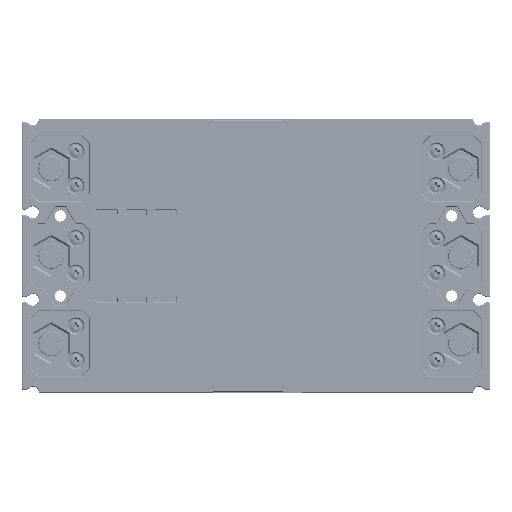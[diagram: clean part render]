
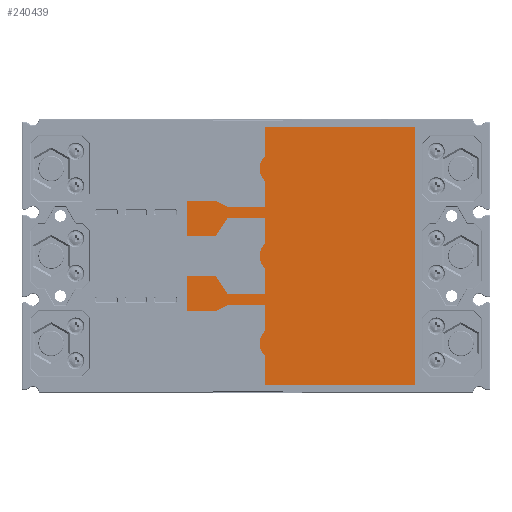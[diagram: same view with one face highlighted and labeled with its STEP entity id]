
A CAD part, front view. The second image highlights one B-rep face of the part: STEP entity #240439.
In plain terms, the highlighted planar face has unit normal (0, -1, 0) as drawn and (0, 0, 1) by its records, which use the part's own axes.
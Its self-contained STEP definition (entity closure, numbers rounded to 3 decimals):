
#239595=DIRECTION('',(1.,0.,0.));
#239596=VECTOR('',#239595,142.);
#239597=CARTESIAN_POINT('',(-71.,0.,0.8));
#239598=LINE('',#239597,#239596);
#239775=DIRECTION('',(0.,-1.,0.));
#239776=VECTOR('',#239775,20.5);
#239777=CARTESIAN_POINT('',(27.1,103.,0.8));
#239778=LINE('',#239777,#239776);
#239779=DIRECTION('',(1.,0.,0.));
#239780=VECTOR('',#239779,13.972);
#239781=CARTESIAN_POINT('',(27.1,82.5,0.8));
#239782=LINE('',#239781,#239780);
#239783=CARTESIAN_POINT('',(48.,76.,0.8));
#239784=DIRECTION('',(0.,0.,-1.));
#239785=DIRECTION('',(-0.729,0.684,0.));
#239786=AXIS2_PLACEMENT_3D('',#239783,#239784,#239785);
#239788=DIRECTION('',(1.,0.,0.));
#239789=VECTOR('',#239788,16.072);
#239790=CARTESIAN_POINT('',(54.928,82.5,0.8));
#239791=LINE('',#239790,#239789);
#239792=DIRECTION('',(0.,-1.,0.));
#239793=VECTOR('',#239792,82.5);
#239794=CARTESIAN_POINT('',(71.,82.5,0.8));
#239795=LINE('',#239794,#239793);
#239796=DIRECTION('',(0.,1.,0.));
#239797=VECTOR('',#239796,82.5);
#239798=CARTESIAN_POINT('',(-71.,0.,0.8));
#239799=LINE('',#239798,#239797);
#239800=DIRECTION('',(1.,0.,0.));
#239801=VECTOR('',#239800,16.072);
#239802=CARTESIAN_POINT('',(-71.,82.5,0.8));
#239803=LINE('',#239802,#239801);
#239804=CARTESIAN_POINT('',(-48.,76.,0.8));
#239805=DIRECTION('',(0.,0.,-1.));
#239806=DIRECTION('',(-0.729,0.684,0.));
#239807=AXIS2_PLACEMENT_3D('',#239804,#239805,#239806);
#239809=DIRECTION('',(1.,0.,0.));
#239810=VECTOR('',#239809,13.972);
#239811=CARTESIAN_POINT('',(-41.072,82.5,0.8));
#239812=LINE('',#239811,#239810);
#239813=DIRECTION('',(0.,1.,0.));
#239814=VECTOR('',#239813,20.5);
#239815=CARTESIAN_POINT('',(-27.1,82.5,0.8));
#239816=LINE('',#239815,#239814);
#239817=DIRECTION('',(-0.436,0.9,0.));
#239818=VECTOR('',#239817,7.223);
#239819=CARTESIAN_POINT('',(-27.1,103.,0.8));
#239820=LINE('',#239819,#239818);
#239821=DIRECTION('',(0.,1.,0.));
#239822=VECTOR('',#239821,16.);
#239823=CARTESIAN_POINT('',(-30.25,109.5,0.8));
#239824=LINE('',#239823,#239822);
#239825=DIRECTION('',(1.,0.,0.));
#239826=VECTOR('',#239825,19.);
#239827=CARTESIAN_POINT('',(-30.25,125.5,0.8));
#239828=LINE('',#239827,#239826);
#239829=DIRECTION('',(0.,-1.,0.));
#239830=VECTOR('',#239829,16.);
#239831=CARTESIAN_POINT('',(-11.25,125.5,0.8));
#239832=LINE('',#239831,#239830);
#239833=DIRECTION('',(-0.829,-0.559,0.));
#239834=VECTOR('',#239833,11.635);
#239835=CARTESIAN_POINT('',(-11.25,109.5,0.8));
#239836=LINE('',#239835,#239834);
#239837=DIRECTION('',(0.,-1.,0.));
#239838=VECTOR('',#239837,20.5);
#239839=CARTESIAN_POINT('',(-20.9,103.,0.8));
#239840=LINE('',#239839,#239838);
#239841=DIRECTION('',(1.,0.,0.));
#239842=VECTOR('',#239841,13.972);
#239843=CARTESIAN_POINT('',(-20.9,82.5,0.8));
#239844=LINE('',#239843,#239842);
#239845=CARTESIAN_POINT('',(0.,76.,0.8));
#239846=DIRECTION('',(0.,0.,-1.));
#239847=DIRECTION('',(-0.729,0.684,0.));
#239848=AXIS2_PLACEMENT_3D('',#239845,#239846,#239847);
#239850=DIRECTION('',(1.,0.,0.));
#239851=VECTOR('',#239850,13.972);
#239852=CARTESIAN_POINT('',(6.928,82.5,0.8));
#239853=LINE('',#239852,#239851);
#239854=DIRECTION('',(0.,1.,0.));
#239855=VECTOR('',#239854,20.5);
#239856=CARTESIAN_POINT('',(20.9,82.5,0.8));
#239857=LINE('',#239856,#239855);
#239858=DIRECTION('',(-0.829,0.559,0.));
#239859=VECTOR('',#239858,11.635);
#239860=CARTESIAN_POINT('',(20.9,103.,0.8));
#239861=LINE('',#239860,#239859);
#239862=DIRECTION('',(0.,1.,0.));
#239863=VECTOR('',#239862,16.);
#239864=CARTESIAN_POINT('',(11.25,109.5,0.8));
#239865=LINE('',#239864,#239863);
#239866=DIRECTION('',(1.,0.,0.));
#239867=VECTOR('',#239866,19.);
#239868=CARTESIAN_POINT('',(11.25,125.5,0.8));
#239869=LINE('',#239868,#239867);
#239870=DIRECTION('',(0.,-1.,0.));
#239871=VECTOR('',#239870,16.);
#239872=CARTESIAN_POINT('',(30.25,125.5,0.8));
#239873=LINE('',#239872,#239871);
#239874=DIRECTION('',(-0.436,-0.9,0.));
#239875=VECTOR('',#239874,7.223);
#239876=CARTESIAN_POINT('',(30.25,109.5,0.8));
#239877=LINE('',#239876,#239875);
#239930=CARTESIAN_POINT('',(-71.,0.,0.8));
#239931=VERTEX_POINT('',#239930);
#239932=CARTESIAN_POINT('',(71.,0.,0.8));
#239933=VERTEX_POINT('',#239932);
#239934=CARTESIAN_POINT('',(-71.,82.5,0.8));
#239935=VERTEX_POINT('',#239934);
#239936=CARTESIAN_POINT('',(-54.928,82.5,0.8));
#239937=VERTEX_POINT('',#239936);
#239938=CARTESIAN_POINT('',(-41.072,82.5,0.8));
#239939=VERTEX_POINT('',#239938);
#239940=CARTESIAN_POINT('',(-20.9,82.5,0.8));
#239941=VERTEX_POINT('',#239940);
#239942=CARTESIAN_POINT('',(-6.928,82.5,0.8));
#239943=VERTEX_POINT('',#239942);
#239944=CARTESIAN_POINT('',(-27.1,82.5,0.8));
#239945=VERTEX_POINT('',#239944);
#239946=CARTESIAN_POINT('',(-20.9,103.,0.8));
#239947=VERTEX_POINT('',#239946);
#239948=CARTESIAN_POINT('',(27.1,103.,0.8));
#239949=CARTESIAN_POINT('',(27.1,82.5,0.8));
#239950=VERTEX_POINT('',#239948);
#239951=VERTEX_POINT('',#239949);
#239952=CARTESIAN_POINT('',(41.072,82.5,0.8));
#239953=VERTEX_POINT('',#239952);
#239954=CARTESIAN_POINT('',(54.928,82.5,0.8));
#239955=VERTEX_POINT('',#239954);
#239956=CARTESIAN_POINT('',(71.,82.5,0.8));
#239957=VERTEX_POINT('',#239956);
#239958=CARTESIAN_POINT('',(-27.1,103.,0.8));
#239959=VERTEX_POINT('',#239958);
#239960=CARTESIAN_POINT('',(-30.25,109.5,0.8));
#239961=VERTEX_POINT('',#239960);
#239962=CARTESIAN_POINT('',(-30.25,125.5,0.8));
#239963=VERTEX_POINT('',#239962);
#239964=CARTESIAN_POINT('',(-11.25,125.5,0.8));
#239965=VERTEX_POINT('',#239964);
#239966=CARTESIAN_POINT('',(-11.25,109.5,0.8));
#239967=VERTEX_POINT('',#239966);
#239968=CARTESIAN_POINT('',(6.928,82.5,0.8));
#239969=VERTEX_POINT('',#239968);
#239970=CARTESIAN_POINT('',(20.9,82.5,0.8));
#239971=VERTEX_POINT('',#239970);
#239972=CARTESIAN_POINT('',(20.9,103.,0.8));
#239973=VERTEX_POINT('',#239972);
#239974=CARTESIAN_POINT('',(11.25,109.5,0.8));
#239975=VERTEX_POINT('',#239974);
#239976=CARTESIAN_POINT('',(11.25,125.5,0.8));
#239977=VERTEX_POINT('',#239976);
#239978=CARTESIAN_POINT('',(30.25,125.5,0.8));
#239979=VERTEX_POINT('',#239978);
#239980=CARTESIAN_POINT('',(30.25,109.5,0.8));
#239981=VERTEX_POINT('',#239980);
#240406=CARTESIAN_POINT('',(0.,0.,0.8));
#240407=DIRECTION('',(0.,0.,1.));
#240408=DIRECTION('',(1.,0.,0.));
#240409=AXIS2_PLACEMENT_3D('',#240406,#240407,#240408);
#240410=PLANE('',#240409);
#240411=ORIENTED_EDGE('',*,*,#240344,.T.);
#240412=ORIENTED_EDGE('',*,*,#240360,.T.);
#240413=ORIENTED_EDGE('',*,*,#240373,.T.);
#240414=ORIENTED_EDGE('',*,*,#240387,.T.);
#240415=ORIENTED_EDGE('',*,*,#240400,.T.);
#240416=ORIENTED_EDGE('',*,*,#240050,.F.);
#240417=ORIENTED_EDGE('',*,*,#240065,.T.);
#240418=ORIENTED_EDGE('',*,*,#240079,.T.);
#240419=ORIENTED_EDGE('',*,*,#240093,.T.);
#240420=ORIENTED_EDGE('',*,*,#240106,.T.);
#240421=ORIENTED_EDGE('',*,*,#240122,.T.);
#240422=ORIENTED_EDGE('',*,*,#240135,.T.);
#240423=ORIENTED_EDGE('',*,*,#240149,.T.);
#240424=ORIENTED_EDGE('',*,*,#240163,.T.);
#240425=ORIENTED_EDGE('',*,*,#240177,.T.);
#240426=ORIENTED_EDGE('',*,*,#240191,.T.);
#240427=ORIENTED_EDGE('',*,*,#240204,.T.);
#240428=ORIENTED_EDGE('',*,*,#240220,.T.);
#240429=ORIENTED_EDGE('',*,*,#240233,.T.);
#240430=ORIENTED_EDGE('',*,*,#240246,.T.);
#240431=ORIENTED_EDGE('',*,*,#240262,.T.);
#240432=ORIENTED_EDGE('',*,*,#240275,.T.);
#240433=ORIENTED_EDGE('',*,*,#240289,.T.);
#240434=ORIENTED_EDGE('',*,*,#240303,.T.);
#240435=ORIENTED_EDGE('',*,*,#240317,.T.);
#240436=ORIENTED_EDGE('',*,*,#240331,.T.);
#240437=EDGE_LOOP('',(#240411,#240412,#240413,#240414,#240415,#240416,#240417,
#240418,#240419,#240420,#240421,#240422,#240423,#240424,#240425,#240426,#240427,
#240428,#240429,#240430,#240431,#240432,#240433,#240434,#240435,#240436));
#240438=FACE_OUTER_BOUND('',#240437,.F.);
#240439=ADVANCED_FACE('',(#240438),#240410,.T.);
#239787=CIRCLE('',#239786,9.5);
#239808=CIRCLE('',#239807,9.5);
#239849=CIRCLE('',#239848,9.5);
#240050=EDGE_CURVE('',#239931,#239933,#239598,.T.);
#240065=EDGE_CURVE('',#239931,#239935,#239799,.T.);
#240079=EDGE_CURVE('',#239935,#239937,#239803,.T.);
#240093=EDGE_CURVE('',#239937,#239939,#239808,.T.);
#240106=EDGE_CURVE('',#239939,#239945,#239812,.T.);
#240122=EDGE_CURVE('',#239945,#239959,#239816,.T.);
#240135=EDGE_CURVE('',#239959,#239961,#239820,.T.);
#240149=EDGE_CURVE('',#239961,#239963,#239824,.T.);
#240163=EDGE_CURVE('',#239963,#239965,#239828,.T.);
#240177=EDGE_CURVE('',#239965,#239967,#239832,.T.);
#240191=EDGE_CURVE('',#239967,#239947,#239836,.T.);
#240204=EDGE_CURVE('',#239947,#239941,#239840,.T.);
#240220=EDGE_CURVE('',#239941,#239943,#239844,.T.);
#240233=EDGE_CURVE('',#239943,#239969,#239849,.T.);
#240246=EDGE_CURVE('',#239969,#239971,#239853,.T.);
#240262=EDGE_CURVE('',#239971,#239973,#239857,.T.);
#240275=EDGE_CURVE('',#239973,#239975,#239861,.T.);
#240289=EDGE_CURVE('',#239975,#239977,#239865,.T.);
#240303=EDGE_CURVE('',#239977,#239979,#239869,.T.);
#240317=EDGE_CURVE('',#239979,#239981,#239873,.T.);
#240331=EDGE_CURVE('',#239981,#239950,#239877,.T.);
#240344=EDGE_CURVE('',#239950,#239951,#239778,.T.);
#240360=EDGE_CURVE('',#239951,#239953,#239782,.T.);
#240373=EDGE_CURVE('',#239953,#239955,#239787,.T.);
#240387=EDGE_CURVE('',#239955,#239957,#239791,.T.);
#240400=EDGE_CURVE('',#239957,#239933,#239795,.T.);
